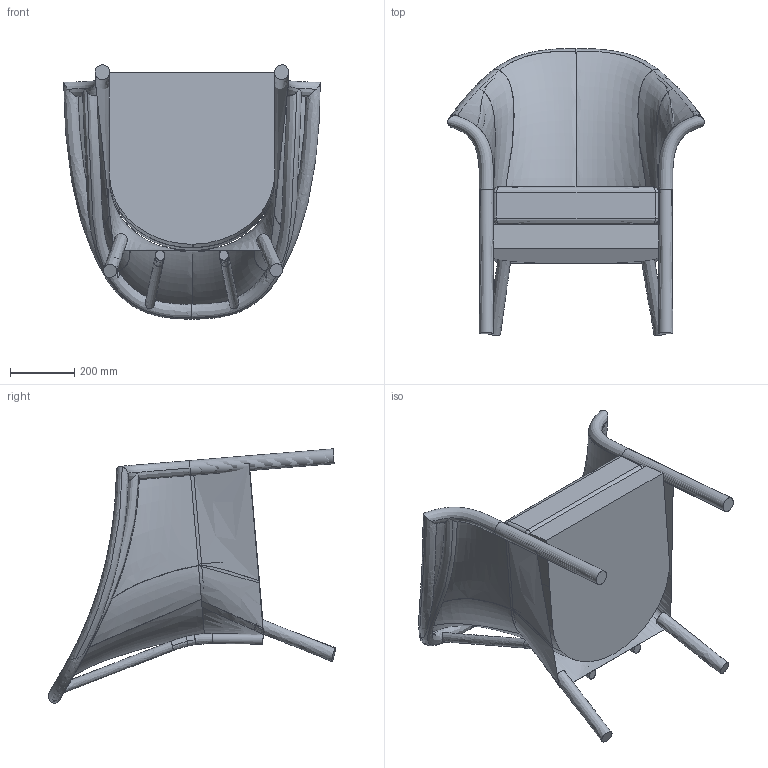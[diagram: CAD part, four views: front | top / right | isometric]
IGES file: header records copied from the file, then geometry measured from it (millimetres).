
Global section: file name: VincentSheppard_Victor_Lounge; native system: unknown; preprocessor: unknown; author: ict@vincentsheppard.com; organization: unknown; date: 20180522.133133; units: millimetre
Bounding box: 797.67 x 892.2 x 790.81 mm (x, y, z)
Volume: 56052935 mm3; surface area: 3169152.7 mm2
Topology: 5 solids, 5 shells, 99 faces, 786 edges, 705 vertices
Faces by surface type: bspline 99
